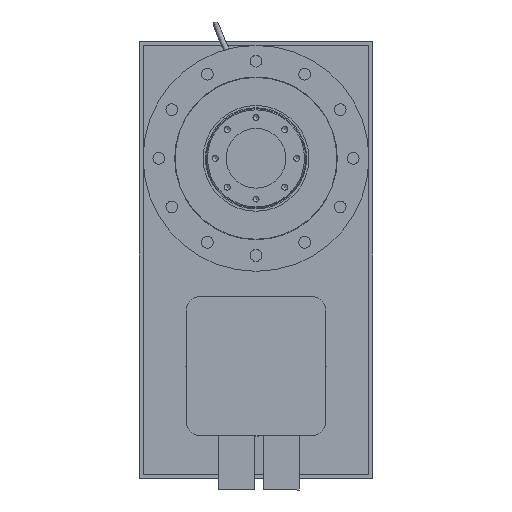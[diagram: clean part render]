
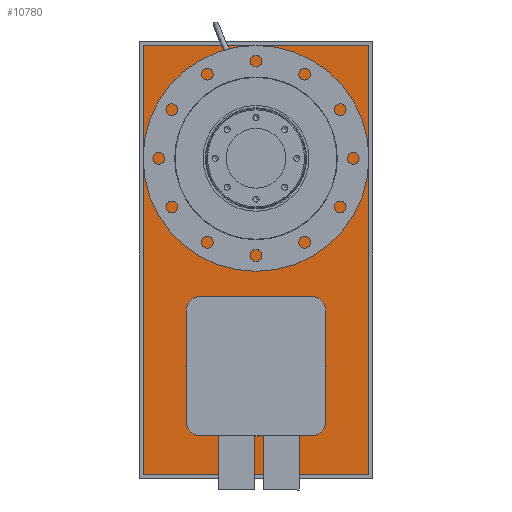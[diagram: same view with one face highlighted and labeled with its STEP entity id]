
A CAD part, front view. The second image highlights one B-rep face of the part: STEP entity #10780.
In plain terms, the highlighted planar face has unit normal (0, -1, 0).
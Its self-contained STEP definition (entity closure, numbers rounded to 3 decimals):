
#600=LINE('',#16678,#1066);
#604=LINE('',#16687,#1070);
#607=LINE('',#16693,#1073);
#610=LINE('',#16709,#1076);
#1066=VECTOR('',#13895,1000.);
#1070=VECTOR('',#13901,1000.);
#1073=VECTOR('',#13906,1000.);
#1076=VECTOR('',#13923,1000.);
#1548=PLANE('',#11699);
#3423=ORIENTED_EDGE('',*,*,#4366,.F.);
#3424=ORIENTED_EDGE('',*,*,#4364,.F.);
#3425=ORIENTED_EDGE('',*,*,#4353,.F.);
#3426=ORIENTED_EDGE('',*,*,#4367,.F.);
#3427=ORIENTED_EDGE('',*,*,#4360,.F.);
#3428=ORIENTED_EDGE('',*,*,#4357,.F.);
#4353=EDGE_CURVE('',#5087,#5088,#600,.T.);
#4357=EDGE_CURVE('',#5088,#5091,#604,.T.);
#4360=EDGE_CURVE('',#5091,#5093,#607,.T.);
#4364=EDGE_CURVE('',#5096,#5096,#5451,.T.);
#4366=EDGE_CURVE('',#5098,#5098,#5453,.T.);
#4367=EDGE_CURVE('',#5093,#5087,#610,.T.);
#5087=VERTEX_POINT('',#16679);
#5088=VERTEX_POINT('',#16680);
#5091=VERTEX_POINT('',#16688);
#5093=VERTEX_POINT('',#16694);
#5096=VERTEX_POINT('',#16702);
#5098=VERTEX_POINT('',#16707);
#5451=CIRCLE('',#11693,10.);
#5453=CIRCLE('',#11696,7.5);
#6257=EDGE_LOOP('',(#3423));
#6258=EDGE_LOOP('',(#3424));
#6259=EDGE_LOOP('',(#3425,#3426,#3427,#3428));
#7099=FACE_BOUND('',#6257,.T.);
#7100=FACE_BOUND('',#6258,.T.);
#7101=FACE_BOUND('',#6259,.T.);
#10780=ADVANCED_FACE('',(#7099,#7100,#7101),#1548,.F.);
#11693=AXIS2_PLACEMENT_3D('',#16701,#13913,#13914);
#11696=AXIS2_PLACEMENT_3D('',#16706,#13919,#13920);
#11699=AXIS2_PLACEMENT_3D('',#16712,#13927,#13928);
#13895=DIRECTION('',(0.,0.,-1.));
#13901=DIRECTION('',(-1.,0.,0.));
#13906=DIRECTION('',(0.,0.,1.));
#13913=DIRECTION('',(0.,-1.,0.));
#13914=DIRECTION('',(1.,0.,0.));
#13919=DIRECTION('',(0.,-1.,0.));
#13920=DIRECTION('',(1.,0.,0.));
#13923=DIRECTION('',(1.,0.,0.));
#13927=DIRECTION('',(0.,1.,0.));
#13928=DIRECTION('',(0.,0.,1.));
#16678=CARTESIAN_POINT('',(125.,0.,125.));
#16679=CARTESIAN_POINT('',(125.,0.,125.));
#16680=CARTESIAN_POINT('',(125.,0.,-350.));
#16687=CARTESIAN_POINT('',(125.,0.,-350.));
#16688=CARTESIAN_POINT('',(-125.,0.,-350.));
#16693=CARTESIAN_POINT('',(-125.,0.,-350.));
#16694=CARTESIAN_POINT('',(-125.,0.,125.));
#16701=CARTESIAN_POINT('',(0.,0.,0.));
#16702=CARTESIAN_POINT('',(10.,0.,0.));
#16706=CARTESIAN_POINT('',(0.,0.,-230.));
#16707=CARTESIAN_POINT('',(7.5,0.,-230.));
#16709=CARTESIAN_POINT('',(-125.,0.,125.));
#16712=CARTESIAN_POINT('',(0.,0.,0.));
